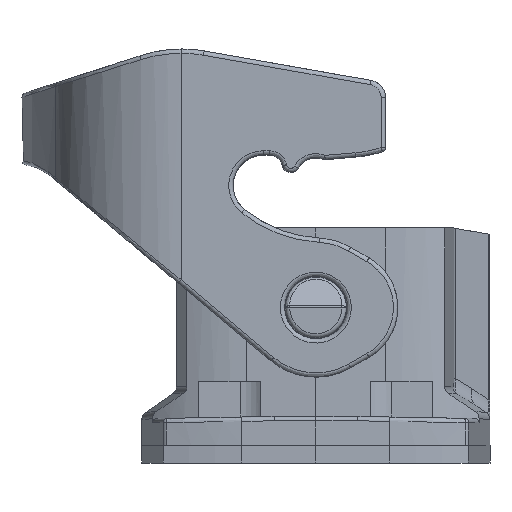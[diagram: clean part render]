
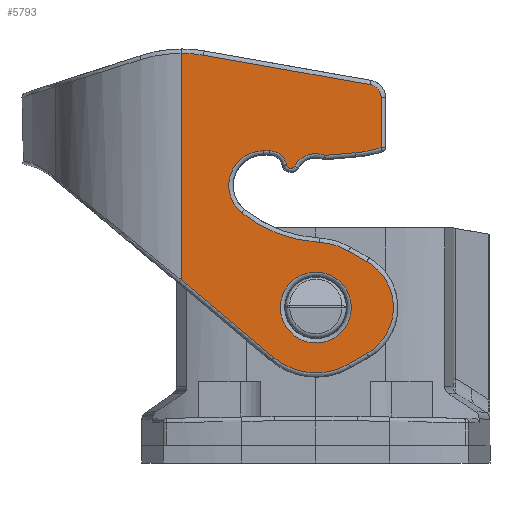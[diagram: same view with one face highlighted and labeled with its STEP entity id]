
A CAD part, left-side view. The second image highlights one B-rep face of the part: STEP entity #5793.
In plain terms, the highlighted planar face has unit normal (-1, 0.009, 0).
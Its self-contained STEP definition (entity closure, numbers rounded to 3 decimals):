
#1462=FACE_BOUND('',#7644,.T.);
#1463=FACE_BOUND('',#7645,.T.);
#1603=PLANE('',#18346);
#2405=ELLIPSE('',#18334,4.075,4.075);
#2406=ELLIPSE('',#18335,7.5,7.5);
#2407=ELLIPSE('',#18336,6.088,6.088);
#2408=ELLIPSE('',#18337,7.5,7.5);
#2409=ELLIPSE('',#18338,15.501,15.5);
#2410=ELLIPSE('',#18339,4.,4.);
#2411=ELLIPSE('',#18340,2.,2.);
#2412=ELLIPSE('',#18341,0.5,0.5);
#2413=ELLIPSE('',#18342,2.8,2.8);
#2414=ELLIPSE('',#18343,14.501,14.5);
#2415=ELLIPSE('',#18344,1.5,1.5);
#2416=ELLIPSE('',#18345,14.501,14.5);
#2686=LINE('',#24921,#4258);
#2687=LINE('',#24924,#4259);
#2688=LINE('',#24928,#4260);
#2689=LINE('',#24932,#4261);
#2690=LINE('',#24940,#4262);
#2691=LINE('',#24948,#4263);
#2692=LINE('',#24952,#4264);
#2693=LINE('',#24956,#4265);
#4258=VECTOR('',#19996,1.);
#4259=VECTOR('',#19997,1.);
#4260=VECTOR('',#20000,1.);
#4261=VECTOR('',#20003,1.);
#4262=VECTOR('',#20010,1.);
#4263=VECTOR('',#20017,1.);
#4264=VECTOR('',#20020,1.);
#4265=VECTOR('',#20023,1.);
#5793=ADVANCED_FACE('',(#1462,#1463),#1603,.T.);
#7644=EDGE_LOOP('',(#9219));
#7645=EDGE_LOOP('',(#9220,#9221,#9222,#9223,#9224,#9225,#9226,#9227,#9228,
#9229,#9230,#9231,#9232,#9233,#9234,#9235,#9236,#9237,#9238));
#9219=ORIENTED_EDGE('',*,*,#15583,.T.);
#9220=ORIENTED_EDGE('',*,*,#15584,.T.);
#9221=ORIENTED_EDGE('',*,*,#15585,.T.);
#9222=ORIENTED_EDGE('',*,*,#15586,.T.);
#9223=ORIENTED_EDGE('',*,*,#15587,.T.);
#9224=ORIENTED_EDGE('',*,*,#15588,.T.);
#9225=ORIENTED_EDGE('',*,*,#15589,.T.);
#9226=ORIENTED_EDGE('',*,*,#15590,.T.);
#9227=ORIENTED_EDGE('',*,*,#15591,.T.);
#9228=ORIENTED_EDGE('',*,*,#15592,.T.);
#9229=ORIENTED_EDGE('',*,*,#15593,.T.);
#9230=ORIENTED_EDGE('',*,*,#15594,.T.);
#9231=ORIENTED_EDGE('',*,*,#15595,.T.);
#9232=ORIENTED_EDGE('',*,*,#15596,.T.);
#9233=ORIENTED_EDGE('',*,*,#15597,.T.);
#9234=ORIENTED_EDGE('',*,*,#15598,.T.);
#9235=ORIENTED_EDGE('',*,*,#15599,.T.);
#9236=ORIENTED_EDGE('',*,*,#15600,.T.);
#9237=ORIENTED_EDGE('',*,*,#15601,.T.);
#9238=ORIENTED_EDGE('',*,*,#15602,.T.);
#14006=VERTEX_POINT('',#24920);
#14007=VERTEX_POINT('',#24922);
#14008=VERTEX_POINT('',#24923);
#14009=VERTEX_POINT('',#24925);
#14010=VERTEX_POINT('',#24927);
#14011=VERTEX_POINT('',#24929);
#14012=VERTEX_POINT('',#24931);
#14013=VERTEX_POINT('',#24933);
#14014=VERTEX_POINT('',#24935);
#14015=VERTEX_POINT('',#24937);
#14016=VERTEX_POINT('',#24939);
#14017=VERTEX_POINT('',#24941);
#14018=VERTEX_POINT('',#24943);
#14019=VERTEX_POINT('',#24945);
#14020=VERTEX_POINT('',#24947);
#14021=VERTEX_POINT('',#24949);
#14022=VERTEX_POINT('',#24951);
#14023=VERTEX_POINT('',#24953);
#14024=VERTEX_POINT('',#24955);
#14025=VERTEX_POINT('',#24957);
#15583=EDGE_CURVE('',#14006,#14006,#2405,.T.);
#15584=EDGE_CURVE('',#14007,#14008,#2686,.T.);
#15585=EDGE_CURVE('',#14008,#14009,#2687,.T.);
#15586=EDGE_CURVE('',#14009,#14010,#2406,.T.);
#15587=EDGE_CURVE('',#14010,#14011,#2688,.T.);
#15588=EDGE_CURVE('',#14011,#14012,#2407,.T.);
#15589=EDGE_CURVE('',#14012,#14013,#2689,.T.);
#15590=EDGE_CURVE('',#14013,#14014,#2408,.T.);
#15591=EDGE_CURVE('',#14014,#14015,#2409,.T.);
#15592=EDGE_CURVE('',#14015,#14016,#2410,.T.);
#15593=EDGE_CURVE('',#14016,#14017,#2690,.T.);
#15594=EDGE_CURVE('',#14017,#14018,#2411,.T.);
#15595=EDGE_CURVE('',#14018,#14019,#2412,.T.);
#15596=EDGE_CURVE('',#14019,#14020,#2413,.T.);
#15597=EDGE_CURVE('',#14020,#14021,#2691,.T.);
#15598=EDGE_CURVE('',#14021,#14022,#2414,.T.);
#15599=EDGE_CURVE('',#14022,#14023,#2692,.T.);
#15600=EDGE_CURVE('',#14023,#14024,#2415,.T.);
#15601=EDGE_CURVE('',#14024,#14025,#2693,.T.);
#15602=EDGE_CURVE('',#14025,#14007,#2416,.T.);
#18334=AXIS2_PLACEMENT_3D('',#24919,#19994,#19995);
#18335=AXIS2_PLACEMENT_3D('',#24926,#19998,#19999);
#18336=AXIS2_PLACEMENT_3D('',#24930,#20001,#20002);
#18337=AXIS2_PLACEMENT_3D('',#24934,#20004,#20005);
#18338=AXIS2_PLACEMENT_3D('',#24936,#20006,#20007);
#18339=AXIS2_PLACEMENT_3D('',#24938,#20008,#20009);
#18340=AXIS2_PLACEMENT_3D('',#24942,#20011,#20012);
#18341=AXIS2_PLACEMENT_3D('',#24944,#20013,#20014);
#18342=AXIS2_PLACEMENT_3D('',#24946,#20015,#20016);
#18343=AXIS2_PLACEMENT_3D('',#24950,#20018,#20019);
#18344=AXIS2_PLACEMENT_3D('',#24954,#20021,#20022);
#18345=AXIS2_PLACEMENT_3D('',#24958,#20024,#20025);
#18346=AXIS2_PLACEMENT_3D('',#24959,#20026,#20027);
#19994=DIRECTION('',(1.,-0.009,0.));
#19995=DIRECTION('',(0.009,1.,0.));
#19996=DIRECTION('',(0.,0.,-1.));
#19997=DIRECTION('',(-0.007,-0.766,-0.643));
#19998=DIRECTION('',(-1.,0.009,0.));
#19999=DIRECTION('',(0.009,1.,0.));
#20000=DIRECTION('',(-0.008,-0.866,0.5));
#20001=DIRECTION('',(-1.,0.009,0.));
#20002=DIRECTION('',(0.009,1.,0.));
#20003=DIRECTION('',(0.008,0.866,0.5));
#20004=DIRECTION('',(-1.,0.009,0.));
#20005=DIRECTION('',(0.009,1.,0.));
#20006=DIRECTION('',(1.,-0.009,0.));
#20007=DIRECTION('',(0.009,1.,0.));
#20008=DIRECTION('',(1.,-0.009,0.));
#20009=DIRECTION('',(0.009,1.,0.));
#20010=DIRECTION('',(-0.009,-1.,0.));
#20011=DIRECTION('',(1.,-0.009,0.));
#20012=DIRECTION('',(0.009,1.,0.));
#20013=DIRECTION('',(-1.,0.009,0.));
#20014=DIRECTION('',(0.009,1.,0.));
#20015=DIRECTION('',(1.,-0.009,0.));
#20016=DIRECTION('',(0.009,1.,0.));
#20017=DIRECTION('',(-0.009,-0.996,0.087));
#20018=DIRECTION('',(-1.,0.009,0.));
#20019=DIRECTION('',(0.009,1.,0.));
#20020=DIRECTION('',(0.,0.,1.));
#20021=DIRECTION('',(-1.,0.009,0.));
#20022=DIRECTION('',(0.009,1.,0.));
#20023=DIRECTION('',(0.009,0.985,0.174));
#20024=DIRECTION('',(-1.,0.009,0.));
#20025=DIRECTION('',(0.009,1.,0.));
#20026=DIRECTION('',(-1.,0.009,0.));
#20027=DIRECTION('',(-0.009,-1.,0.));
#24919=CARTESIAN_POINT('',(-45.65,0.004,-0.2));
#24920=CARTESIAN_POINT('',(-45.614,4.079,-0.2));
#24921=CARTESIAN_POINT('',(-45.515,15.479,44.8));
#24922=CARTESIAN_POINT('',(-45.515,15.479,28.999));
#24923=CARTESIAN_POINT('',(-45.515,15.479,2.995));
#24924=CARTESIAN_POINT('',(-45.476,19.938,6.735));
#24925=CARTESIAN_POINT('',(-45.608,4.825,-5.945));
#24926=CARTESIAN_POINT('',(-45.65,0.004,-0.2));
#24927=CARTESIAN_POINT('',(-45.683,-3.746,-6.695));
#24928=CARTESIAN_POINT('',(-45.931,-32.233,9.752));
#24929=CARTESIAN_POINT('',(-45.701,-5.864,-5.472));
#24930=CARTESIAN_POINT('',(-45.675,-2.821,-0.2));
#24931=CARTESIAN_POINT('',(-45.701,-5.864,5.072));
#24932=CARTESIAN_POINT('',(-45.591,6.736,12.347));
#24933=CARTESIAN_POINT('',(-45.683,-3.746,6.295));
#24934=CARTESIAN_POINT('',(-45.65,0.004,-0.2));
#24935=CARTESIAN_POINT('',(-45.653,-0.386,7.29));
#24936=CARTESIAN_POINT('',(-45.66,-1.194,22.769));
#24937=CARTESIAN_POINT('',(-45.576,8.508,10.68));
#24938=CARTESIAN_POINT('',(-45.598,6.004,13.8));
#24939=CARTESIAN_POINT('',(-45.598,6.004,17.8));
#24940=CARTESIAN_POINT('',(-45.755,-12.,17.8));
#24941=CARTESIAN_POINT('',(-45.604,5.326,17.8));
#24942=CARTESIAN_POINT('',(-45.604,5.326,15.8));
#24943=CARTESIAN_POINT('',(-45.621,3.366,16.2));
#24944=CARTESIAN_POINT('',(-45.625,2.877,16.3));
#24945=CARTESIAN_POINT('',(-45.629,2.441,16.054));
#24946=CARTESIAN_POINT('',(-45.65,0.004,14.675));
#24947=CARTESIAN_POINT('',(-45.659,-1.035,17.275));
#24948=CARTESIAN_POINT('',(-45.775,-14.306,18.436));
#24949=CARTESIAN_POINT('',(-45.689,-4.492,17.577));
#24950=CARTESIAN_POINT('',(-45.678,-3.228,32.022));
#24951=CARTESIAN_POINT('',(-45.715,-7.496,18.164));
#24952=CARTESIAN_POINT('',(-45.715,-7.496,44.8));
#24953=CARTESIAN_POINT('',(-45.715,-7.496,23.922));
#24954=CARTESIAN_POINT('',(-45.702,-5.996,23.922));
#24955=CARTESIAN_POINT('',(-45.705,-6.256,25.399));
#24956=CARTESIAN_POINT('',(-45.724,-8.509,25.002));
#24957=CARTESIAN_POINT('',(-45.537,12.91,28.779));
#24958=CARTESIAN_POINT('',(-45.515,15.428,14.499));
#24959=CARTESIAN_POINT('',(-45.755,-12.,44.8));
